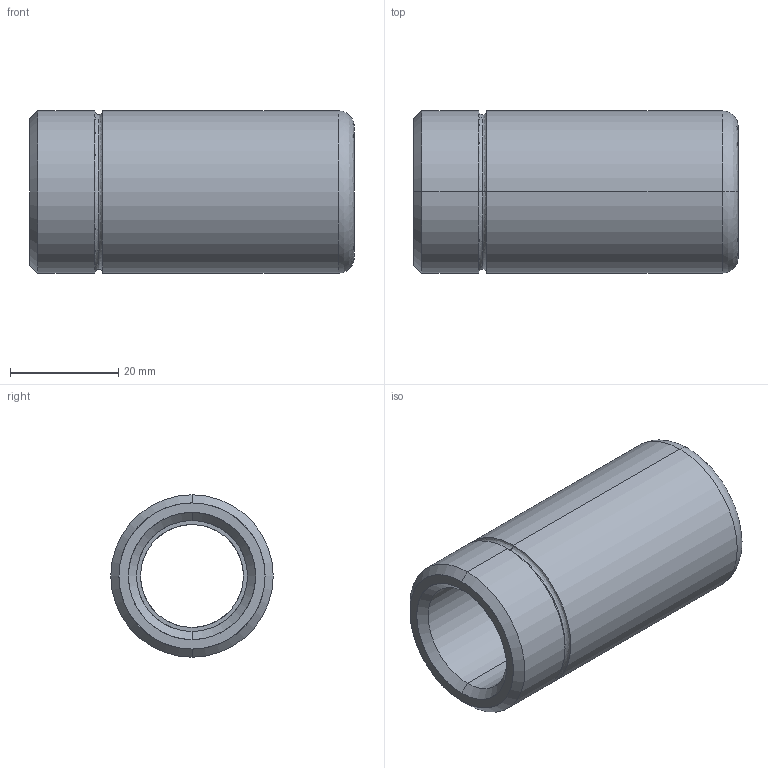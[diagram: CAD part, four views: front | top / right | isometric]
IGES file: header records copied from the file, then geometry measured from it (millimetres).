
Start section: START RECORD GO HERE.
Global section: file name: 343-19 x 60.igs; native system: DASSAULT SYSTEMES CATIA V5 R20 - www.3ds.com; preprocessor: CATIA Version 5 Release 20 ; author: Utente; organization: NB04-ASUS; date: 20201230.203917; units: millimetre
Bounding box: 60 x 30 x 30 mm (x, y, z)
Surface area: 10086.7 mm2 (no closed solid volume)
Topology: 0 solids, 0 shells, 29 faces, 172 edges, 172 vertices
Faces by surface type: revolution 26, plane 3
